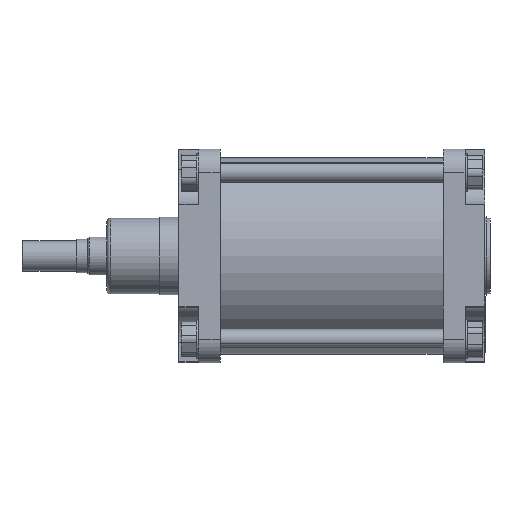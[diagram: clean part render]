
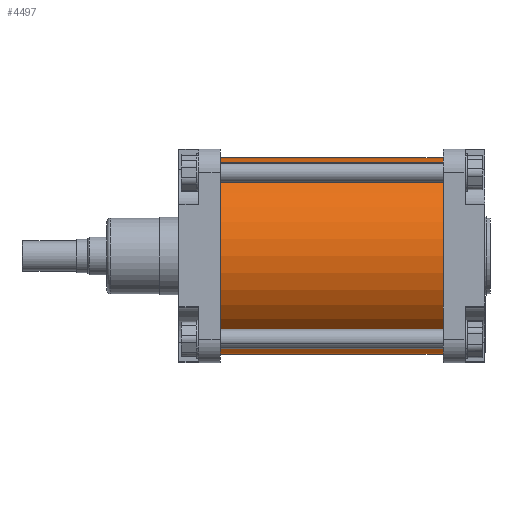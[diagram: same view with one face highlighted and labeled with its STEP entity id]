
A CAD part, top view. The second image highlights one B-rep face of the part: STEP entity #4497.
In plain terms, the highlighted cylindrical face has radius 130 mm (diameter 260 mm), a partial arc.
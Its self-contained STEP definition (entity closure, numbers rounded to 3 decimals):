
#2427=CARTESIAN_POINT('Vertex',(-50.,-130.,0.)) ;
#2429=CARTESIAN_POINT('Vertex',(-50.,130.,0.)) ;
#2432=CARTESIAN_POINT('Axis2P3D Location',(-50.,0.,0.)) ;
#4467=CARTESIAN_POINT('Axis2P3D Location',(97.,0.,0.)) ;
#4472=CARTESIAN_POINT('Line Origine',(97.,130.,0.)) ;
#4476=CARTESIAN_POINT('Vertex',(244.,130.,0.)) ;
#4479=CARTESIAN_POINT('Line Origine',(97.,-130.,0.)) ;
#4483=CARTESIAN_POINT('Vertex',(244.,-130.,0.)) ;
#4486=CARTESIAN_POINT('Axis2P3D Location',(244.,0.,0.)) ;
#2433=DIRECTION('Axis2P3D Direction',(-1.,0.,0.)) ;
#4468=DIRECTION('Axis2P3D Direction',(1.,-0.,0.)) ;
#4469=DIRECTION('Axis2P3D XDirection',(0.,1.,0.)) ;
#4473=DIRECTION('Vector Direction',(1.,0.,0.)) ;
#4480=DIRECTION('Vector Direction',(1.,0.,0.)) ;
#4487=DIRECTION('Axis2P3D Direction',(1.,-0.,0.)) ;
#2434=AXIS2_PLACEMENT_3D('Circle Axis2P3D',#2432,#2433,$) ;
#4470=AXIS2_PLACEMENT_3D('Cylinder Axis2P3D',#4467,#4468,#4469) ;
#4488=AXIS2_PLACEMENT_3D('Circle Axis2P3D',#4486,#4487,$) ;
#4492=ORIENTED_EDGE('',*,*,#4478,.F.) ;
#4493=ORIENTED_EDGE('',*,*,#2436,.T.) ;
#4494=ORIENTED_EDGE('',*,*,#4485,.T.) ;
#4495=ORIENTED_EDGE('',*,*,#4490,.F.) ;
#4474=VECTOR('Line Direction',#4473,1.) ;
#4481=VECTOR('Line Direction',#4480,1.) ;
#4497=ADVANCED_FACE('PartBody',(#4496),#4471,.T.) ;
#2435=CIRCLE('generated circle',#2434,130.) ;
#4489=CIRCLE('generated circle',#4488,130.) ;
#4471=CYLINDRICAL_SURFACE('generated cylinder',#4470,130.) ;
#2436=EDGE_CURVE('',#2430,#2428,#2435,.F.) ;
#4478=EDGE_CURVE('',#2430,#4477,#4475,.T.) ;
#4485=EDGE_CURVE('',#2428,#4484,#4482,.T.) ;
#4490=EDGE_CURVE('',#4477,#4484,#4489,.T.) ;
#4491=EDGE_LOOP('',(#4492,#4493,#4494,#4495)) ;
#4496=FACE_OUTER_BOUND('',#4491,.T.) ;
#4475=LINE('Line',#4472,#4474) ;
#4482=LINE('Line',#4479,#4481) ;
#2428=VERTEX_POINT('',#2427) ;
#2430=VERTEX_POINT('',#2429) ;
#4477=VERTEX_POINT('',#4476) ;
#4484=VERTEX_POINT('',#4483) ;
